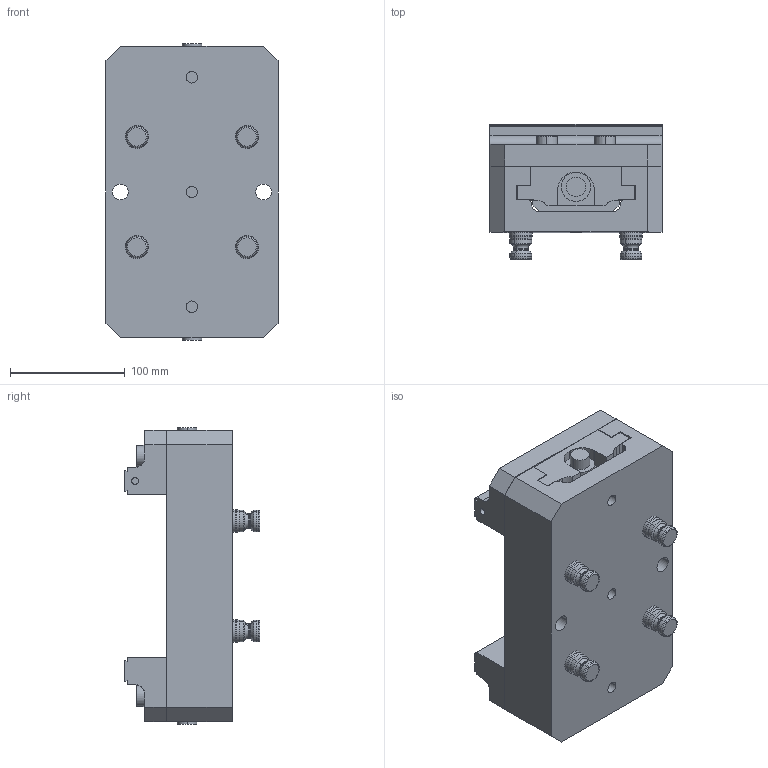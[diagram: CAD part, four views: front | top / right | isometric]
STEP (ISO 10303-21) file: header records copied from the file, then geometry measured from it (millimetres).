
FILE_DESCRIPTION (( 'STEP AP214' ), '1' );
FILE_NAME ('D_R96-V6105M.STEP', '2020-03-13T22:14:10', ( '' ), ( '' ), 'SwSTEP 2.0', 'SolidWorks 2018', '' );
FILE_SCHEMA (( 'AUTOMOTIVE_DESIGN' ));
Length unit declared in the file: millimetre
Products named in the file (6): D_V6105M-2; D_R96-V6105M; D_V6105M-1; D_V6105M; D_PS20F_HARD TURN; D_V6105M-5
Assembly tree (10 placements, depth 3):
  D_R96-V6105M
    D_V6105M
      D_V6105M-1
      D_V6105M-2  x2
      D_V6105M-5  x2
    D_PS20F_HARD TURN  x4
Bounding box: 150 x 118.12 x 258.32 mm (x, y, z)
Volume: 2091352.6 mm3; surface area: 297641 mm2
Topology: 9 solids, 9 shells, 398 faces, 906 edges, 556 vertices
Faces by surface type: plane 152, cylinder 142, torus 64, cone 40
Entity records: 7065 total; most frequent: CARTESIAN_POINT 1186, DIRECTION 1077, ORIENTED_EDGE 946, EDGE_CURVE 473, AXIS2_PLACEMENT_3D 397, VERTEX_POINT 302, VECTOR 283, LINE 283
